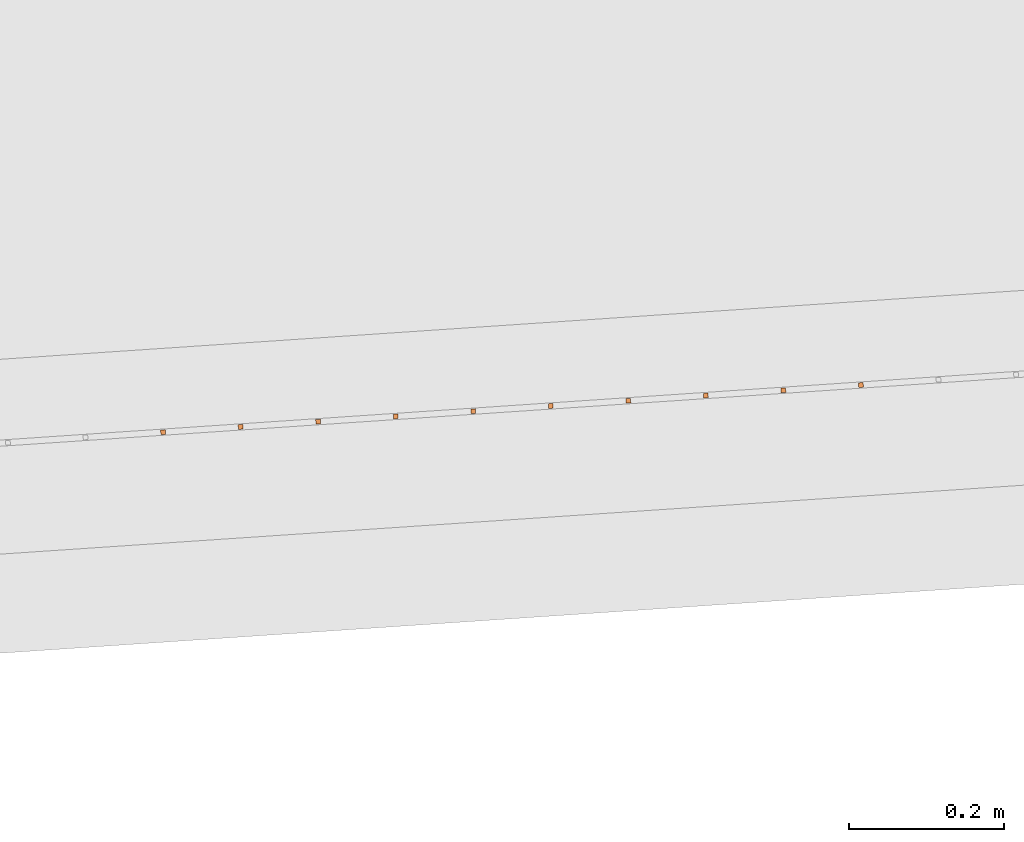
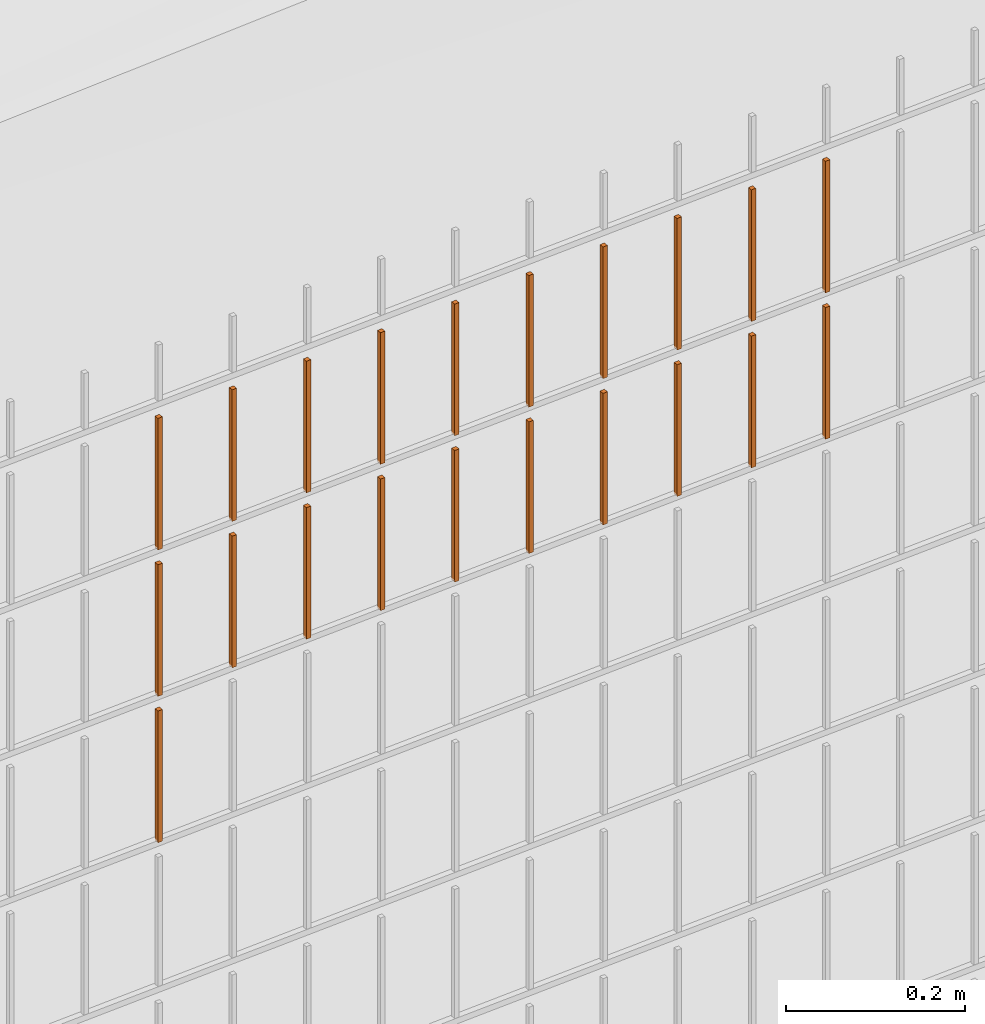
# One storey, part 297 of 1809: 21 proxies, 1 element without a shape of its own.
"""IFC2X3 building model written with IfcOpenShell, lengths in millimetres."""

from ifc_helpers import new_model, entity, si_unit, converted_unit, derived_unit, money_unit, direction, frame, origin_with_axes, place, context, subcontext, project, spatial, faceted_brep, source, transform, mapped, material, type_object, element, aggregate, save


model = new_model("IFC2X3")

# Units and contexts
model_context = context("Model", 3, precision=0.01, world=origin_with_axes(), true_north=direction((0.0, 1.0)))
body_context = subcontext(model_context, "Body", "Model", "MODEL_VIEW")
ifc_project = project(units=[si_unit("LENGTHUNIT", "METRE", prefix="MILLI"), si_unit("AREAUNIT", "SQUARE_METRE"), si_unit("VOLUMEUNIT", "CUBIC_METRE"), converted_unit("PLANEANGLEUNIT", "DEGREE", entity("IfcPlaneAngleMeasure", 0.0174532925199), si_unit("PLANEANGLEUNIT", "RADIAN"), dimensions=[0, 0, 0, 0, 0, 0, 0]), si_unit("SOLIDANGLEUNIT", "STERADIAN"), money_unit("EUR"), converted_unit("TIMEUNIT", "Year", entity("IfcTimeMeasure", 31556926.0), si_unit("TIMEUNIT", "SECOND"), dimensions=[0, 0, 1, 0, 0, 0, 0]), si_unit("MASSUNIT", "GRAM", prefix="KILO"), si_unit("THERMODYNAMICTEMPERATUREUNIT", "DEGREE_CELSIUS"), si_unit("LUMINOUSINTENSITYUNIT", "LUMEN"), si_unit("ENERGYUNIT", "JOULE", prefix="MEGA"), derived_unit("THERMALCONDUCTANCEUNIT", [(si_unit("POWERUNIT", "WATT"), 1), (si_unit("LENGTHUNIT", "METRE"), -1), (si_unit("THERMODYNAMICTEMPERATUREUNIT", "KELVIN"), -1)]), derived_unit("SPECIFICHEATCAPACITYUNIT", [(si_unit("ENERGYUNIT", "JOULE"), 1), (si_unit("MASSUNIT", "GRAM", prefix="KILO"), -1), (si_unit("THERMODYNAMICTEMPERATUREUNIT", "KELVIN"), -1)]), derived_unit("MASSDENSITYUNIT", [(si_unit("MASSUNIT", "GRAM", prefix="KILO"), 1), (si_unit("VOLUMEUNIT", "CUBIC_METRE"), -1)])], contexts=[model_context])

# Site, building, storey
site_placement = place(None, origin_with_axes())
site = spatial("IfcSite", under=ifc_project, at=site_placement, Name="Politse- ja Piirivalveameti ning Päästeameti ühishoone", CompositionType="ELEMENT")
building_placement = place(site_placement, origin_with_axes())
building = spatial("IfcBuilding", under=site, at=building_placement, Name="Politse- ja Piirivalveameti ning Päästeameti ühishoone", CompositionType="ELEMENT")
storey_placement = place(building_placement, origin_with_axes())
storey = spatial("IfcBuildingStorey", under=building, at=storey_placement, Name="Esimene korrus", CompositionType="ELEMENT", Elevation=0.0)

# Proxies
building_element_proxy_type_1 = type_object("IfcBuildingElementProxyType", Name="Railing Type", PredefinedType="NOTDEFINED")
proxy_1_placement = place(storey_placement, frame((89252.001212, -29183.4766571, 203.661247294), z_axis=(0.0, 0.0, 1.0), x_axis=(1.0, 0.0, 0.0)))
proxy_1 = element("IfcBuildingElementProxy", 1, at=proxy_1_placement, inside=storey, type_object=building_element_proxy_type_1, Name="PIIRDEAED")
ifc_material = material(Name="ET-03_Raud")
building_element_proxy_type_2 = type_object("IfcBuildingElementProxyType", Name="IfcBuildingElementProxy", PredefinedType="NOTDEFINED")
shared_shape_1 = source(origin_with_axes(), body_context, "Body", "Brep", [
    faceted_brep([(3.0, 3.0, -0.000752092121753), (-3.0, 3.0, -0.000752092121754), (-3.0, 3.0, 179.99926046), (3.0, 3.0, 179.99926046), (3.0, -3.0, 0.000752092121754), (-3.0, -3.0, 0.000752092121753), (-3.0, -3.0, 180.000764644), (3.0, -3.0, 180.000764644)], [[[0, 1, 2, 3]], [[0, 4, 5, 1]], [[1, 5, 6, 2]], [[3, 2, 6, 7]], [[4, 0, 3, 7]], [[5, 4, 7, 6]]]),
])
proxy_2_placement = place(proxy_1_placement, frame((-45323.4117678, -20359.2001821, 1615.84603413), z_axis=(0.0, 0.0, 1.0), x_axis=(1.0, 0.0, 0.0)))
proxy_2 = element("IfcBuildingElementProxy", 2, at=proxy_2_placement, type_object=building_element_proxy_type_2, material=ifc_material, Name="BALUSTER - 001", context=body_context, shape_type="MappedRepresentation", body=[
    mapped(shared_shape_1, transform((0.0, 0.0, 0.0), x_axis=(-0.0673926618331, 0.997726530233, 0.0), y_axis=(-0.997726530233, -0.0673926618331, 0.0), z_axis=(0.0, 0.0, 1.0))),
])
shared_shape_2 = source(origin_with_axes(), body_context, "Body", "Brep", [
    faceted_brep([(3.0, 3.0, -0.000752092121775), (-3.0, 3.0, -0.000752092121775), (-3.0, 3.0, 179.99926046), (3.0, 3.0, 179.99926046), (3.0, -3.0, 0.000752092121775), (-3.0, -3.0, 0.000752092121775), (-3.0, -3.0, 180.000764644), (3.0, -3.0, 180.000764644)], [[[0, 1, 2, 3]], [[0, 4, 5, 1]], [[1, 5, 6, 2]], [[3, 2, 6, 7]], [[4, 0, 3, 7]], [[5, 4, 7, 6]]]),
])
proxy_3_placement = place(proxy_1_placement, frame((-45922.0476859, -20399.6357792, 1815.69561571), z_axis=(0.0, 0.0, 1.0), x_axis=(1.0, 0.0, 0.0)))
proxy_3 = element("IfcBuildingElementProxy", 3, at=proxy_3_placement, type_object=building_element_proxy_type_2, material=ifc_material, Name="BALUSTER - 001", context=body_context, shape_type="MappedRepresentation", body=[
    mapped(shared_shape_2, transform((0.0, 0.0, 0.0), x_axis=(-0.0673926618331, 0.997726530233, 0.0), y_axis=(-0.997726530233, -0.0673926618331, 0.0), z_axis=(0.0, 0.0, 1.0))),
])
shared_shape_3 = source(origin_with_axes(), body_context, "Body", "Brep", [
    faceted_brep([(3.0, 3.0, -0.000752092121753), (-3.0, 3.0, -0.000752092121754), (-3.0, 3.0, 179.99926046), (3.0, 3.0, 179.99926046), (3.0, -3.0, 0.000752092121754), (-3.0, -3.0, 0.000752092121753), (-3.0, -3.0, 180.000764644), (3.0, -3.0, 180.000764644)], [[[0, 1, 2, 3]], [[0, 4, 5, 1]], [[1, 5, 6, 2]], [[3, 2, 6, 7]], [[4, 0, 3, 7]], [[5, 4, 7, 6]]]),
])
proxy_4_placement = place(proxy_1_placement, frame((-45323.4117678, -20359.2001821, 1815.84603413), z_axis=(0.0, 0.0, 1.0), x_axis=(1.0, 0.0, 0.0)))
proxy_4 = element("IfcBuildingElementProxy", 4, at=proxy_4_placement, type_object=building_element_proxy_type_2, material=ifc_material, Name="BALUSTER - 001", context=body_context, shape_type="MappedRepresentation", body=[
    mapped(shared_shape_3, transform((0.0, 0.0, 0.0), x_axis=(-0.0673926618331, 0.997726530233, 0.0), y_axis=(-0.997726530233, -0.0673926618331, 0.0), z_axis=(0.0, 0.0, 1.0))),
])
shared_shape_4 = source(origin_with_axes(), body_context, "Body", "Brep", [
    faceted_brep([(3.0, 3.0, -0.000752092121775), (-3.0, 3.0, -0.000752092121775), (-3.0, 3.0, 179.99926046), (3.0, 3.0, 179.99926046), (3.0, -3.0, 0.000752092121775), (-3.0, -3.0, 0.000752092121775), (-3.0, -3.0, 180.000764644), (3.0, -3.0, 180.000764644)], [[[0, 1, 2, 3]], [[0, 4, 5, 1]], [[1, 5, 6, 2]], [[3, 2, 6, 7]], [[4, 0, 3, 7]], [[5, 4, 7, 6]]]),
])
proxy_5_placement = place(proxy_1_placement, frame((-45922.0476859, -20399.6357792, 1615.69561571), z_axis=(0.0, 0.0, 1.0), x_axis=(1.0, 0.0, 0.0)))
proxy_5 = element("IfcBuildingElementProxy", 5, at=proxy_5_placement, type_object=building_element_proxy_type_2, material=ifc_material, Name="BALUSTER - 001", context=body_context, shape_type="MappedRepresentation", body=[
    mapped(shared_shape_4, transform((0.0, 0.0, 0.0), x_axis=(-0.0673926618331, 0.997726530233, 0.0), y_axis=(-0.997726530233, -0.0673926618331, 0.0), z_axis=(0.0, 0.0, 1.0))),
])
shared_shape_5 = source(origin_with_axes(), body_context, "Body", "Brep", [
    faceted_brep([(3.0, 3.0, -0.000752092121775), (-3.0, 3.0, -0.000752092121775), (-3.0, 3.0, 179.99926046), (3.0, 3.0, 179.99926046), (3.0, -3.0, 0.000752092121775), (-3.0, -3.0, 0.000752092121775), (-3.0, -3.0, 180.000764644), (3.0, -3.0, 180.000764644)], [[[0, 1, 2, 3]], [[0, 4, 5, 1]], [[1, 5, 6, 2]], [[3, 2, 6, 7]], [[4, 0, 3, 7]], [[5, 4, 7, 6]]]),
])
proxy_6_placement = place(proxy_1_placement, frame((-45722.5023799, -20386.1572469, 1615.74575518), z_axis=(0.0, 0.0, 1.0), x_axis=(1.0, 0.0, 0.0)))
proxy_6 = element("IfcBuildingElementProxy", 6, at=proxy_6_placement, type_object=building_element_proxy_type_2, material=ifc_material, Name="BALUSTER - 001", context=body_context, shape_type="MappedRepresentation", body=[
    mapped(shared_shape_5, transform((0.0, 0.0, 0.0), x_axis=(-0.0673926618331, 0.997726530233, 0.0), y_axis=(-0.997726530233, -0.0673926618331, 0.0), z_axis=(0.0, 0.0, 1.0))),
])
shared_shape_6 = source(origin_with_axes(), body_context, "Body", "Brep", [
    faceted_brep([(3.0, 3.0, -0.000752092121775), (-3.0, 3.0, -0.000752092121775), (-3.0, 3.0, 179.99926046), (3.0, 3.0, 179.99926046), (3.0, -3.0, 0.000752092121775), (-3.0, -3.0, 0.000752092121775), (-3.0, -3.0, 180.000764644), (3.0, -3.0, 180.000764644)], [[[0, 1, 2, 3]], [[0, 4, 5, 1]], [[1, 5, 6, 2]], [[3, 2, 6, 7]], [[4, 0, 3, 7]], [[5, 4, 7, 6]]]),
])
proxy_7_placement = place(proxy_1_placement, frame((-45722.5023799, -20386.1572469, 1815.74575518), z_axis=(0.0, 0.0, 1.0), x_axis=(1.0, 0.0, 0.0)))
proxy_7 = element("IfcBuildingElementProxy", 7, at=proxy_7_placement, type_object=building_element_proxy_type_2, material=ifc_material, Name="BALUSTER - 001", context=body_context, shape_type="MappedRepresentation", body=[
    mapped(shared_shape_6, transform((0.0, 0.0, 0.0), x_axis=(-0.0673926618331, 0.997726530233, 0.0), y_axis=(-0.997726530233, -0.0673926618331, 0.0), z_axis=(0.0, 0.0, 1.0))),
])
shared_shape_7 = source(origin_with_axes(), body_context, "Body", "Brep", [
    faceted_brep([(3.0, 3.0, -0.000752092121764), (-3.0, 3.0, -0.000752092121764), (-3.0, 3.0, 179.99926046), (3.0, 3.0, 179.99926046), (3.0, -3.0, 0.000752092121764), (-3.0, -3.0, 0.000752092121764), (-3.0, -3.0, 180.000764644), (3.0, -3.0, 180.000764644)], [[[0, 1, 2, 3]], [[0, 4, 5, 1]], [[1, 5, 6, 2]], [[3, 2, 6, 7]], [[4, 0, 3, 7]], [[5, 4, 7, 6]]]),
])
proxy_8_placement = place(proxy_1_placement, frame((-46121.592992, -20413.1143116, 1815.64547623), z_axis=(0.0, 0.0, 1.0), x_axis=(1.0, 0.0, 0.0)))
proxy_8 = element("IfcBuildingElementProxy", 8, at=proxy_8_placement, type_object=building_element_proxy_type_2, material=ifc_material, Name="BALUSTER - 001", context=body_context, shape_type="MappedRepresentation", body=[
    mapped(shared_shape_7, transform((0.0, 0.0, 0.0), x_axis=(-0.0673926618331, 0.997726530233, 0.0), y_axis=(-0.997726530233, -0.0673926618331, 0.0), z_axis=(0.0, 0.0, 1.0))),
])
shared_shape_8 = source(origin_with_axes(), body_context, "Body", "Brep", [
    faceted_brep([(3.0, 3.0, -0.000752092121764), (-3.0, 3.0, -0.000752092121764), (-3.0, 3.0, 179.99926046), (3.0, 3.0, 179.99926046), (3.0, -3.0, 0.000752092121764), (-3.0, -3.0, 0.000752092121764), (-3.0, -3.0, 180.000764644), (3.0, -3.0, 180.000764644)], [[[0, 1, 2, 3]], [[0, 4, 5, 1]], [[1, 5, 6, 2]], [[3, 2, 6, 7]], [[4, 0, 3, 7]], [[5, 4, 7, 6]]]),
])
proxy_9_placement = place(proxy_1_placement, frame((-45522.9570738, -20372.6787145, 1815.79589466), z_axis=(0.0, 0.0, 1.0), x_axis=(1.0, 0.0, 0.0)))
proxy_9 = element("IfcBuildingElementProxy", 9, at=proxy_9_placement, type_object=building_element_proxy_type_2, material=ifc_material, Name="BALUSTER - 001", context=body_context, shape_type="MappedRepresentation", body=[
    mapped(shared_shape_8, transform((0.0, 0.0, 0.0), x_axis=(-0.0673926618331, 0.997726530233, 0.0), y_axis=(-0.997726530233, -0.0673926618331, 0.0), z_axis=(0.0, 0.0, 1.0))),
])
shared_shape_9 = source(origin_with_axes(), body_context, "Body", "Brep", [
    faceted_brep([(3.0, 3.0, -0.000752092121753), (-3.0, 3.0, -0.000752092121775), (-3.0, 3.0, 179.99926046), (3.0, 3.0, 179.99926046), (3.0, -3.0, 0.000752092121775), (-3.0, -3.0, 0.000752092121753), (-3.0, -3.0, 180.000764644), (3.0, -3.0, 180.000764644)], [[[0, 1, 2, 3]], [[0, 4, 5, 1]], [[1, 5, 6, 2]], [[3, 2, 6, 7]], [[4, 0, 3, 7]], [[5, 4, 7, 6]]]),
])
proxy_10_placement = place(proxy_1_placement, frame((-45423.1844208, -20365.9394483, 1615.82096439), z_axis=(0.0, 0.0, 1.0), x_axis=(1.0, 0.0, 0.0)))
proxy_10 = element("IfcBuildingElementProxy", 10, at=proxy_10_placement, type_object=building_element_proxy_type_2, material=ifc_material, Name="BALUSTER - 001", context=body_context, shape_type="MappedRepresentation", body=[
    mapped(shared_shape_9, transform((0.0, 0.0, 0.0), x_axis=(-0.0673926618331, 0.997726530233, 0.0), y_axis=(-0.997726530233, -0.0673926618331, 0.0), z_axis=(0.0, 0.0, 1.0))),
])
proxy_11_placement = place(proxy_1_placement, frame((-45822.2750329, -20392.896513, 1615.72068544), z_axis=(0.0, 0.0, 1.0), x_axis=(1.0, 0.0, 0.0)))
proxy_11 = element("IfcBuildingElementProxy", 11, at=proxy_11_placement, type_object=building_element_proxy_type_2, material=ifc_material, Name="BALUSTER - 001", context=body_context, shape_type="MappedRepresentation", body=[
    mapped(shared_shape_9, transform((0.0, 0.0, 0.0), x_axis=(-0.0673926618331, 0.997726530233, 0.0), y_axis=(-0.997726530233, -0.0673926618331, 0.0), z_axis=(0.0, 0.0, 1.0))),
])
shared_shape_10 = source(origin_with_axes(), body_context, "Body", "Brep", [
    faceted_brep([(3.0, 3.0, -0.000752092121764), (-3.0, 3.0, -0.000752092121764), (-3.0, 3.0, 179.99926046), (3.0, 3.0, 179.99926046), (3.0, -3.0, 0.000752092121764), (-3.0, -3.0, 0.000752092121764), (-3.0, -3.0, 180.000764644), (3.0, -3.0, 180.000764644)], [[[0, 1, 2, 3]], [[0, 4, 5, 1]], [[1, 5, 6, 2]], [[3, 2, 6, 7]], [[4, 0, 3, 7]], [[5, 4, 7, 6]]]),
])
proxy_12_placement = place(proxy_1_placement, frame((-46121.592992, -20413.1143116, 1415.64547623), z_axis=(0.0, 0.0, 1.0), x_axis=(1.0, 0.0, 0.0)))
proxy_12 = element("IfcBuildingElementProxy", 12, at=proxy_12_placement, type_object=building_element_proxy_type_2, material=ifc_material, Name="BALUSTER - 001", context=body_context, shape_type="MappedRepresentation", body=[
    mapped(shared_shape_10, transform((0.0, 0.0, 0.0), x_axis=(-0.0673926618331, 0.997726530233, 0.0), y_axis=(-0.997726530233, -0.0673926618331, 0.0), z_axis=(0.0, 0.0, 1.0))),
])
proxy_13_placement = place(proxy_1_placement, frame((-46121.592992, -20413.1143116, 1615.64547623), z_axis=(0.0, 0.0, 1.0), x_axis=(1.0, 0.0, 0.0)))
proxy_13 = element("IfcBuildingElementProxy", 13, at=proxy_13_placement, type_object=building_element_proxy_type_2, material=ifc_material, Name="BALUSTER - 001", context=body_context, shape_type="MappedRepresentation", body=[
    mapped(shared_shape_10, transform((0.0, 0.0, 0.0), x_axis=(-0.0673926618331, 0.997726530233, 0.0), y_axis=(-0.997726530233, -0.0673926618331, 0.0), z_axis=(0.0, 0.0, 1.0))),
])
shared_shape_11 = source(origin_with_axes(), body_context, "Body", "Brep", [
    faceted_brep([(3.0, 3.0, -0.000752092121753), (-3.0, 3.0, -0.000752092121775), (-3.0, 3.0, 179.99926046), (3.0, 3.0, 179.99926046), (3.0, -3.0, 0.000752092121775), (-3.0, -3.0, 0.000752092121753), (-3.0, -3.0, 180.000764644), (3.0, -3.0, 180.000764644)], [[[0, 1, 2, 3]], [[0, 4, 5, 1]], [[1, 5, 6, 2]], [[3, 2, 6, 7]], [[4, 0, 3, 7]], [[5, 4, 7, 6]]]),
])
proxy_14_placement = place(proxy_1_placement, frame((-45423.1844208, -20365.9394483, 1815.82096439), z_axis=(0.0, 0.0, 1.0), x_axis=(1.0, 0.0, 0.0)))
proxy_14 = element("IfcBuildingElementProxy", 14, at=proxy_14_placement, type_object=building_element_proxy_type_2, material=ifc_material, Name="BALUSTER - 001", context=body_context, shape_type="MappedRepresentation", body=[
    mapped(shared_shape_11, transform((0.0, 0.0, 0.0), x_axis=(-0.0673926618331, 0.997726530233, 0.0), y_axis=(-0.997726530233, -0.0673926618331, 0.0), z_axis=(0.0, 0.0, 1.0))),
])
shared_shape_12 = source(origin_with_axes(), body_context, "Body", "Brep", [
    faceted_brep([(3.0, 3.0, -0.000752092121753), (-3.0, 3.0, -0.000752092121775), (-3.0, 3.0, 179.99926046), (3.0, 3.0, 179.99926046), (3.0, -3.0, 0.000752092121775), (-3.0, -3.0, 0.000752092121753), (-3.0, -3.0, 180.000764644), (3.0, -3.0, 180.000764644)], [[[0, 1, 2, 3]], [[0, 4, 5, 1]], [[1, 5, 6, 2]], [[3, 2, 6, 7]], [[4, 0, 3, 7]], [[5, 4, 7, 6]]]),
])
proxy_15_placement = place(proxy_1_placement, frame((-45223.6391147, -20352.460916, 1815.87110387), z_axis=(0.0, 0.0, 1.0), x_axis=(1.0, 0.0, 0.0)))
proxy_15 = element("IfcBuildingElementProxy", 15, at=proxy_15_placement, type_object=building_element_proxy_type_2, material=ifc_material, Name="BALUSTER - 001", context=body_context, shape_type="MappedRepresentation", body=[
    mapped(shared_shape_12, transform((0.0, 0.0, 0.0), x_axis=(-0.0673926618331, 0.997726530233, 0.0), y_axis=(-0.997726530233, -0.0673926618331, 0.0), z_axis=(0.0, 0.0, 1.0))),
])
proxy_16_placement = place(proxy_1_placement, frame((-45822.2750329, -20392.896513, 1815.72068544), z_axis=(0.0, 0.0, 1.0), x_axis=(1.0, 0.0, 0.0)))
proxy_16 = element("IfcBuildingElementProxy", 16, at=proxy_16_placement, type_object=building_element_proxy_type_2, material=ifc_material, Name="BALUSTER - 001", context=body_context, shape_type="MappedRepresentation", body=[
    mapped(shared_shape_12, transform((0.0, 0.0, 0.0), x_axis=(-0.0673926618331, 0.997726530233, 0.0), y_axis=(-0.997726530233, -0.0673926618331, 0.0), z_axis=(0.0, 0.0, 1.0))),
])
shared_shape_13 = source(origin_with_axes(), body_context, "Body", "Brep", [
    faceted_brep([(3.0, 3.0, -0.000752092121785), (-3.0, 3.0, -0.000752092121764), (-3.0, 3.0, 179.99926046), (3.0, 3.0, 179.99926046), (3.0, -3.0, 0.000752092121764), (-3.0, -3.0, 0.000752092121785), (-3.0, -3.0, 180.000764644), (3.0, -3.0, 180.000764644)], [[[0, 1, 2, 3]], [[0, 4, 5, 1]], [[1, 5, 6, 2]], [[3, 2, 6, 7]], [[4, 0, 3, 7]], [[5, 4, 7, 6]]]),
])
proxy_17_placement = place(proxy_1_placement, frame((-45622.7297268, -20379.4179807, 1815.77082492), z_axis=(0.0, 0.0, 1.0), x_axis=(1.0, 0.0, 0.0)))
proxy_17 = element("IfcBuildingElementProxy", 17, at=proxy_17_placement, type_object=building_element_proxy_type_2, material=ifc_material, Name="BALUSTER - 001", context=body_context, shape_type="MappedRepresentation", body=[
    mapped(shared_shape_13, transform((0.0, 0.0, 0.0), x_axis=(-0.0673926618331, 0.997726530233, 0.0), y_axis=(-0.997726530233, -0.0673926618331, 0.0), z_axis=(0.0, 0.0, 1.0))),
])
shared_shape_14 = source(origin_with_axes(), body_context, "Body", "Brep", [
    faceted_brep([(3.0, 3.0, -0.000752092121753), (-3.0, 3.0, -0.000752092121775), (-3.0, 3.0, 179.99926046), (3.0, 3.0, 179.99926046), (3.0, -3.0, 0.000752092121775), (-3.0, -3.0, 0.000752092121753), (-3.0, -3.0, 180.000764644), (3.0, -3.0, 180.000764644)], [[[0, 1, 2, 3]], [[0, 4, 5, 1]], [[1, 5, 6, 2]], [[3, 2, 6, 7]], [[4, 0, 3, 7]], [[5, 4, 7, 6]]]),
])
proxy_18_placement = place(proxy_1_placement, frame((-45223.6391147, -20352.460916, 1615.87110387), z_axis=(0.0, 0.0, 1.0), x_axis=(1.0, 0.0, 0.0)))
proxy_18 = element("IfcBuildingElementProxy", 18, at=proxy_18_placement, type_object=building_element_proxy_type_2, material=ifc_material, Name="BALUSTER - 001", context=body_context, shape_type="MappedRepresentation", body=[
    mapped(shared_shape_14, transform((0.0, 0.0, 0.0), x_axis=(-0.0673926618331, 0.997726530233, 0.0), y_axis=(-0.997726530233, -0.0673926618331, 0.0), z_axis=(0.0, 0.0, 1.0))),
])
shared_shape_15 = source(origin_with_axes(), body_context, "Body", "Brep", [
    faceted_brep([(3.0, 3.0, -0.000752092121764), (-3.0, 3.0, -0.000752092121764), (-3.0, 3.0, 179.99926046), (3.0, 3.0, 179.99926046), (3.0, -3.0, 0.000752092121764), (-3.0, -3.0, 0.000752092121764), (-3.0, -3.0, 180.000764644), (3.0, -3.0, 180.000764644)], [[[0, 1, 2, 3]], [[0, 4, 5, 1]], [[1, 5, 6, 2]], [[3, 2, 6, 7]], [[4, 0, 3, 7]], [[5, 4, 7, 6]]]),
])
proxy_19_placement = place(proxy_1_placement, frame((-45522.9570738, -20372.6787145, 1615.79589466), z_axis=(0.0, 0.0, 1.0), x_axis=(1.0, 0.0, 0.0)))
proxy_19 = element("IfcBuildingElementProxy", 19, at=proxy_19_placement, type_object=building_element_proxy_type_2, material=ifc_material, Name="BALUSTER - 001", context=body_context, shape_type="MappedRepresentation", body=[
    mapped(shared_shape_15, transform((0.0, 0.0, 0.0), x_axis=(-0.0673926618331, 0.997726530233, 0.0), y_axis=(-0.997726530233, -0.0673926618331, 0.0), z_axis=(0.0, 0.0, 1.0))),
])
shared_shape_16 = source(origin_with_axes(), body_context, "Body", "Brep", [
    faceted_brep([(3.0, 3.0, -0.000752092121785), (-3.0, 3.0, -0.000752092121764), (-3.0, 3.0, 179.99926046), (3.0, 3.0, 179.99926046), (3.0, -3.0, 0.000752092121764), (-3.0, -3.0, 0.000752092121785), (-3.0, -3.0, 180.000764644), (3.0, -3.0, 180.000764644)], [[[0, 1, 2, 3]], [[0, 4, 5, 1]], [[1, 5, 6, 2]], [[3, 2, 6, 7]], [[4, 0, 3, 7]], [[5, 4, 7, 6]]]),
])
proxy_20_placement = place(proxy_1_placement, frame((-45622.7297268, -20379.4179807, 1615.77082492), z_axis=(0.0, 0.0, 1.0), x_axis=(1.0, 0.0, 0.0)))
proxy_20 = element("IfcBuildingElementProxy", 20, at=proxy_20_placement, type_object=building_element_proxy_type_2, material=ifc_material, Name="BALUSTER - 001", context=body_context, shape_type="MappedRepresentation", body=[
    mapped(shared_shape_16, transform((0.0, 0.0, 0.0), x_axis=(-0.0673926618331, 0.997726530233, 0.0), y_axis=(-0.997726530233, -0.0673926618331, 0.0), z_axis=(0.0, 0.0, 1.0))),
])
shared_shape_17 = source(origin_with_axes(), body_context, "Body", "Brep", [
    faceted_brep([(3.0, 3.0, -0.000752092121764), (-3.0, 3.0, -0.000752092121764), (-3.0, 3.0, 179.99926046), (3.0, 3.0, 179.99926046), (3.0, -3.0, 0.000752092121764), (-3.0, -3.0, 0.000752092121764), (-3.0, -3.0, 180.000764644), (3.0, -3.0, 180.000764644)], [[[0, 1, 2, 3]], [[0, 4, 5, 1]], [[1, 5, 6, 2]], [[3, 2, 6, 7]], [[4, 0, 3, 7]], [[5, 4, 7, 6]]]),
])
proxy_21_placement = place(proxy_1_placement, frame((-46021.8203389, -20406.3750454, 1615.67054597), z_axis=(0.0, 0.0, 1.0), x_axis=(1.0, 0.0, 0.0)))
proxy_21 = element("IfcBuildingElementProxy", 21, at=proxy_21_placement, type_object=building_element_proxy_type_2, material=ifc_material, Name="BALUSTER - 001", context=body_context, shape_type="MappedRepresentation", body=[
    mapped(shared_shape_17, transform((0.0, 0.0, 0.0), x_axis=(-0.0673926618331, 0.997726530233, 0.0), y_axis=(-0.997726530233, -0.0673926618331, 0.0), z_axis=(0.0, 0.0, 1.0))),
])
shared_shape_18 = source(origin_with_axes(), body_context, "Body", "Brep", [
    faceted_brep([(3.0, 3.0, -0.000752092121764), (-3.0, 3.0, -0.000752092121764), (-3.0, 3.0, 179.99926046), (3.0, 3.0, 179.99926046), (3.0, -3.0, 0.000752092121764), (-3.0, -3.0, 0.000752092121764), (-3.0, -3.0, 180.000764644), (3.0, -3.0, 180.000764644)], [[[0, 1, 2, 3]], [[0, 4, 5, 1]], [[1, 5, 6, 2]], [[3, 2, 6, 7]], [[4, 0, 3, 7]], [[5, 4, 7, 6]]]),
])
proxy_22_placement = place(proxy_1_placement, frame((-46021.8203389, -20406.3750454, 1815.67054597), z_axis=(0.0, 0.0, 1.0), x_axis=(1.0, 0.0, 0.0)))
proxy_22 = element("IfcBuildingElementProxy", 22, at=proxy_22_placement, type_object=building_element_proxy_type_2, material=ifc_material, Name="BALUSTER - 001", context=body_context, shape_type="MappedRepresentation", body=[
    mapped(shared_shape_18, transform((0.0, 0.0, 0.0), x_axis=(-0.0673926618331, 0.997726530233, 0.0), y_axis=(-0.997726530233, -0.0673926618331, 0.0), z_axis=(0.0, 0.0, 1.0))),
])
aggregate(proxy_1, [proxy_12, proxy_18, proxy_2, proxy_10, proxy_19, proxy_20, proxy_6, proxy_11, proxy_5, proxy_21, proxy_13, proxy_15, proxy_4, proxy_14, proxy_9, proxy_17, proxy_7, proxy_16, proxy_3, proxy_22, proxy_8])

save(model, "model.ifc")
